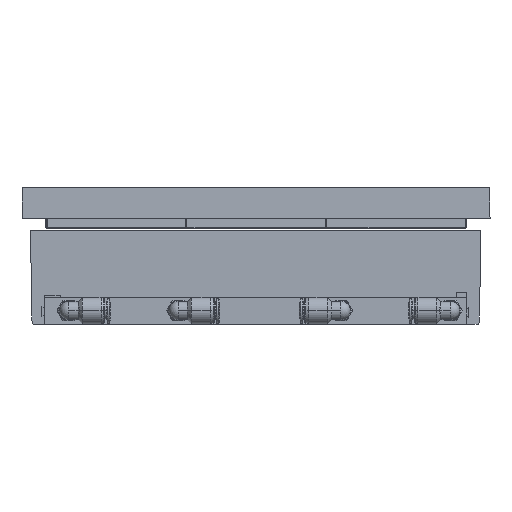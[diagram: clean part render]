
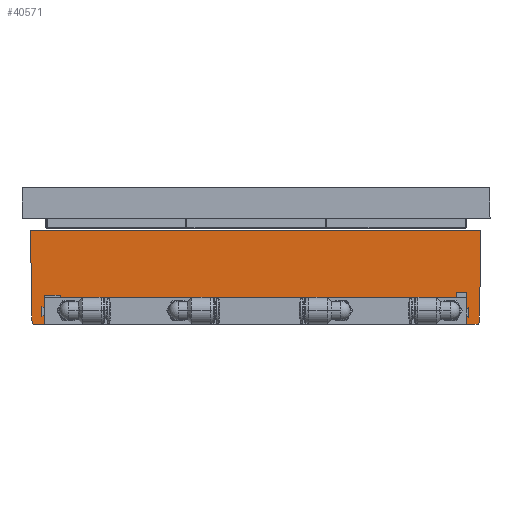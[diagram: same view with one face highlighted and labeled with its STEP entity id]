
A CAD part, front view. The second image highlights one B-rep face of the part: STEP entity #40571.
In plain terms, the highlighted planar face has unit normal (0, -1, 0).
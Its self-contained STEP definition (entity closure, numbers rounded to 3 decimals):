
#1155 = VECTOR ( 'NONE', #48191, 1000. ) ;
#2587 = CARTESIAN_POINT ( 'NONE',  ( -20.691, 0.274, 240.928 ) ) ;
#2857 = VERTEX_POINT ( 'NONE', #21681 ) ;
#3415 = FACE_OUTER_BOUND ( 'NONE', #45203, .T. ) ;
#3778 = PLANE ( 'NONE',  #46453 ) ;
#4106 = DIRECTION ( 'NONE',  ( 0., -1., 0. ) ) ;
#4357 = VECTOR ( 'NONE', #19493, 1000. ) ;
#5231 = EDGE_CURVE ( 'NONE', #26834, #68233, #33632, .T. ) ;
#5834 = ORIENTED_EDGE ( 'NONE', *, *, #43294, .T. ) ;
#5882 = EDGE_CURVE ( 'NONE', #54741, #58667, #6773, .T. ) ;
#6773 = LINE ( 'NONE', #34432, #65530 ) ;
#7123 = CARTESIAN_POINT ( 'NONE',  ( 155.933, 0.274, 270.881 ) ) ;
#7414 = DIRECTION ( 'NONE',  ( 0., -1., 0. ) ) ;
#7447 = LINE ( 'NONE', #55600, #22539 ) ;
#7990 = EDGE_CURVE ( 'NONE', #50139, #13132, #42504, .T. ) ;
#8058 = CARTESIAN_POINT ( 'NONE',  ( -15.741, 0.274, 233.881 ) ) ;
#9410 = CARTESIAN_POINT ( 'NONE',  ( 150.159, 0.274, 237.981 ) ) ;
#10349 = CARTESIAN_POINT ( 'NONE',  ( 150.159, 0.274, 244.331 ) ) ;
#11399 = CARTESIAN_POINT ( 'NONE',  ( 129.059, 0.274, 270.881 ) ) ;
#13132 = VERTEX_POINT ( 'NONE', #19645 ) ;
#13610 = VECTOR ( 'NONE', #46286, 1000. ) ;
#16525 = VERTEX_POINT ( 'NONE', #54886 ) ;
#16698 = ORIENTED_EDGE ( 'NONE', *, *, #31724, .T. ) ;
#16747 = EDGE_CURVE ( 'NONE', #41322, #50139, #7447, .T. ) ;
#16839 = EDGE_CURVE ( 'NONE', #16525, #58667, #25036, .T. ) ;
#18505 = AXIS2_PLACEMENT_3D ( 'NONE', #47671, #21124, #25461 ) ;
#18968 = CARTESIAN_POINT ( 'NONE',  ( -15.741, 0.274, 244.331 ) ) ;
#19047 = CARTESIAN_POINT ( 'NONE',  ( 155.41, 0.274, 240.928 ) ) ;
#19493 = DIRECTION ( 'NONE',  ( 0., 0., -1. ) ) ;
#19645 = CARTESIAN_POINT ( 'NONE',  ( -21.214, 0.274, 270.881 ) ) ;
#20611 = ORIENTED_EDGE ( 'NONE', *, *, #62889, .T. ) ;
#21124 = DIRECTION ( 'NONE',  ( 0., -1., 0. ) ) ;
#21681 = CARTESIAN_POINT ( 'NONE',  ( 155.933, 0.274, 270.881 ) ) ;
#22539 = VECTOR ( 'NONE', #34758, 1000. ) ;
#22848 = CARTESIAN_POINT ( 'NONE',  ( 103.734, 0.274, 233.881 ) ) ;
#24273 = ORIENTED_EDGE ( 'NONE', *, *, #62572, .T. ) ;
#24419 = LINE ( 'NONE', #19047, #13610 ) ;
#25036 = LINE ( 'NONE', #18968, #27128 ) ;
#25461 = DIRECTION ( 'NONE',  ( 1., 0., 0. ) ) ;
#26459 = CARTESIAN_POINT ( 'NONE',  ( 155.316, 0.274, 235.439 ) ) ;
#26561 = CIRCLE ( 'NONE', #69076, 3. ) ;
#26834 = VERTEX_POINT ( 'NONE', #59839 ) ;
#27001 = ORIENTED_EDGE ( 'NONE', *, *, #7990, .F. ) ;
#27128 = VECTOR ( 'NONE', #36173, 1000. ) ;
#29249 = LINE ( 'NONE', #62308, #30804 ) ;
#29970 = CIRCLE ( 'NONE', #18505, 3. ) ;
#30804 = VECTOR ( 'NONE', #50790, 1000. ) ;
#31724 = EDGE_CURVE ( 'NONE', #67819, #26834, #41725, .T. ) ;
#32204 = EDGE_CURVE ( 'NONE', #70562, #35157, #24419, .T. ) ;
#32262 = VECTOR ( 'NONE', #32596, 1000. ) ;
#32596 = DIRECTION ( 'NONE',  ( 1., 0., 0. ) ) ;
#32969 = VECTOR ( 'NONE', #47867, 1000. ) ;
#33632 = LINE ( 'NONE', #22848, #1155 ) ;
#34432 = CARTESIAN_POINT ( 'NONE',  ( 103.734, 0.274, 233.881 ) ) ;
#34758 = DIRECTION ( 'NONE',  ( -0.012, 0., 1. ) ) ;
#35071 = CARTESIAN_POINT ( 'NONE',  ( 152.316, 0.274, 235.491 ) ) ;
#35157 = VERTEX_POINT ( 'NONE', #26459 ) ;
#36173 = DIRECTION ( 'NONE',  ( 0., 0., -1. ) ) ;
#36651 = ORIENTED_EDGE ( 'NONE', *, *, #16839, .F. ) ;
#37125 = CARTESIAN_POINT ( 'NONE',  ( -20.751, 0.274, 244.331 ) ) ;
#37147 = DIRECTION ( 'NONE',  ( 1., 0., 0. ) ) ;
#39362 = ORIENTED_EDGE ( 'NONE', *, *, #5231, .T. ) ;
#40571 = ADVANCED_FACE ( 'NONE', ( #3415 ), #3778, .T. ) ;
#41322 = VERTEX_POINT ( 'NONE', #42643 ) ;
#41725 = LINE ( 'NONE', #9410, #4357 ) ;
#42504 = LINE ( 'NONE', #37125, #32969 ) ;
#42643 = CARTESIAN_POINT ( 'NONE',  ( -20.623, 0.274, 235.453 ) ) ;
#43294 = EDGE_CURVE ( 'NONE', #70562, #2857, #56342, .T. ) ;
#45203 = EDGE_LOOP ( 'NONE', ( #24273, #60589, #36651, #53757, #16698, #39362, #20611, #46443, #5834, #67062, #27001, #57166 ) ) ;
#45561 = CARTESIAN_POINT ( 'NONE',  ( 155.41, 0.274, 240.928 ) ) ;
#46286 = DIRECTION ( 'NONE',  ( -0.017, 0., -1. ) ) ;
#46443 = ORIENTED_EDGE ( 'NONE', *, *, #32204, .F. ) ;
#46453 = AXIS2_PLACEMENT_3D ( 'NONE', #48256, #4106, #37147 ) ;
#46478 = EDGE_CURVE ( 'NONE', #16525, #67819, #29249, .T. ) ;
#47671 = CARTESIAN_POINT ( 'NONE',  ( -17.623, 0.274, 235.491 ) ) ;
#47867 = DIRECTION ( 'NONE',  ( -0.017, 0., 1. ) ) ;
#48191 = DIRECTION ( 'NONE',  ( 1., 0., 0. ) ) ;
#48256 = CARTESIAN_POINT ( 'NONE',  ( 103.734, 0.274, 253.118 ) ) ;
#48315 = CARTESIAN_POINT ( 'NONE',  ( 154.848, 0.274, 233.881 ) ) ;
#49321 = CARTESIAN_POINT ( 'NONE',  ( -20.155, 0.274, 233.881 ) ) ;
#50139 = VERTEX_POINT ( 'NONE', #2587 ) ;
#50790 = DIRECTION ( 'NONE',  ( 1., 0., 0. ) ) ;
#53359 = VECTOR ( 'NONE', #67141, 1000. ) ;
#53757 = ORIENTED_EDGE ( 'NONE', *, *, #46478, .T. ) ;
#54741 = VERTEX_POINT ( 'NONE', #49321 ) ;
#54886 = CARTESIAN_POINT ( 'NONE',  ( -15.741, 0.274, 244.331 ) ) ;
#55600 = CARTESIAN_POINT ( 'NONE',  ( -20.691, 0.274, 240.928 ) ) ;
#56342 = LINE ( 'NONE', #7123, #53359 ) ;
#57166 = ORIENTED_EDGE ( 'NONE', *, *, #16747, .F. ) ;
#58667 = VERTEX_POINT ( 'NONE', #8058 ) ;
#59839 = CARTESIAN_POINT ( 'NONE',  ( 150.159, 0.274, 233.881 ) ) ;
#60589 = ORIENTED_EDGE ( 'NONE', *, *, #5882, .T. ) ;
#60982 = LINE ( 'NONE', #11399, #32262 ) ;
#62124 = DIRECTION ( 'NONE',  ( 1., 0., 0. ) ) ;
#62308 = CARTESIAN_POINT ( 'NONE',  ( 124.159, 0.274, 244.331 ) ) ;
#62572 = EDGE_CURVE ( 'NONE', #41322, #54741, #29970, .T. ) ;
#62752 = EDGE_CURVE ( 'NONE', #13132, #2857, #60982, .T. ) ;
#62889 = EDGE_CURVE ( 'NONE', #68233, #35157, #26561, .T. ) ;
#65530 = VECTOR ( 'NONE', #62124, 1000. ) ;
#67062 = ORIENTED_EDGE ( 'NONE', *, *, #62752, .F. ) ;
#67141 = DIRECTION ( 'NONE',  ( 0.017, 0., 1. ) ) ;
#67448 = DIRECTION ( 'NONE',  ( 1., 0., 0. ) ) ;
#67819 = VERTEX_POINT ( 'NONE', #10349 ) ;
#68233 = VERTEX_POINT ( 'NONE', #48315 ) ;
#69076 = AXIS2_PLACEMENT_3D ( 'NONE', #35071, #7414, #67448 ) ;
#70562 = VERTEX_POINT ( 'NONE', #45561 ) ;
